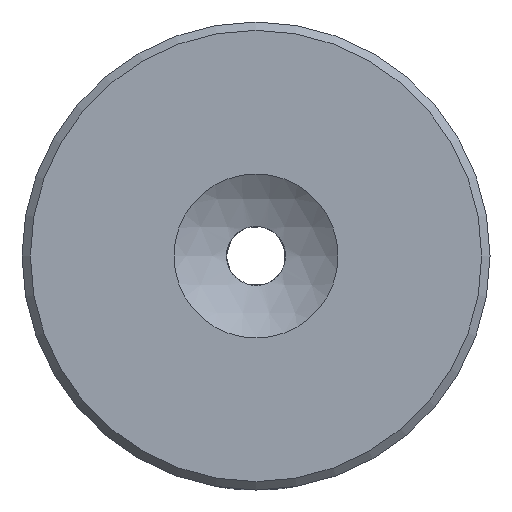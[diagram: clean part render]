
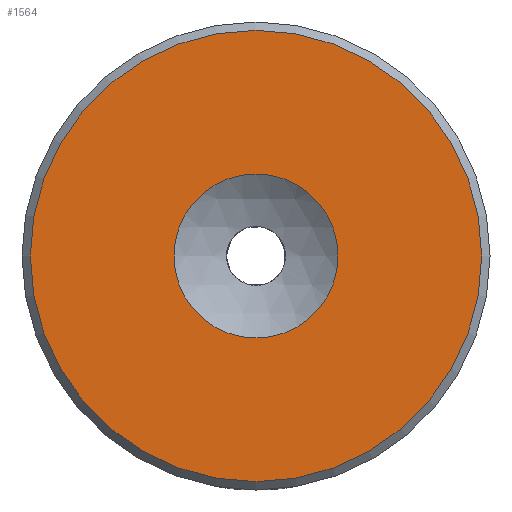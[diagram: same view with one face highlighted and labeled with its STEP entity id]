
A CAD part, front view. The second image highlights one B-rep face of the part: STEP entity #1564.
In plain terms, the highlighted planar face has unit normal (0, -1, 0).
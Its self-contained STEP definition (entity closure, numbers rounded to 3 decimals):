
#213 = FACE_OUTER_BOUND ( 'NONE', #871, .T. ) ;
#216 = DIRECTION ( 'NONE',  ( 0., -1., 0. ) ) ;
#452 = CARTESIAN_POINT ( 'NONE',  ( 0., 0., 13.5 ) ) ;
#663 = DIRECTION ( 'NONE',  ( 0., 1., 0. ) ) ;
#871 = EDGE_LOOP ( 'NONE', ( #2760 ) ) ;
#896 = VERTEX_POINT ( 'NONE', #452 ) ;
#914 = CARTESIAN_POINT ( 'NONE',  ( 0., 0., 4.905 ) ) ;
#951 = CARTESIAN_POINT ( 'NONE',  ( 0., 0., 0. ) ) ;
#1210 = FACE_BOUND ( 'NONE', #1981, .T. ) ;
#1350 = AXIS2_PLACEMENT_3D ( 'NONE', #951, #663, #2243 ) ;
#1496 = CARTESIAN_POINT ( 'NONE',  ( 0., 0., 0. ) ) ;
#1564 = ADVANCED_FACE ( 'NONE', ( #213, #1210 ), #2439, .F. ) ;
#1748 = EDGE_CURVE ( 'NONE', #1953, #1953, #2940, .T. ) ;
#1875 = AXIS2_PLACEMENT_3D ( 'NONE', #1496, #2507, #3014 ) ;
#1953 = VERTEX_POINT ( 'NONE', #914 ) ;
#1981 = EDGE_LOOP ( 'NONE', ( #3259 ) ) ;
#2047 = CIRCLE ( 'NONE', #2781, 13.5 ) ;
#2096 = EDGE_CURVE ( 'NONE', #896, #896, #2047, .T. ) ;
#2231 = DIRECTION ( 'NONE',  ( 0., 0., 1. ) ) ;
#2243 = DIRECTION ( 'NONE',  ( 0., 0., 1. ) ) ;
#2439 = PLANE ( 'NONE',  #1350 ) ;
#2481 = CARTESIAN_POINT ( 'NONE',  ( 0., 0., 0. ) ) ;
#2507 = DIRECTION ( 'NONE',  ( 0., -1., 0. ) ) ;
#2760 = ORIENTED_EDGE ( 'NONE', *, *, #2096, .T. ) ;
#2781 = AXIS2_PLACEMENT_3D ( 'NONE', #2481, #216, #2231 ) ;
#2940 = CIRCLE ( 'NONE', #1875, 4.905 ) ;
#3014 = DIRECTION ( 'NONE',  ( 0., 0., 1. ) ) ;
#3259 = ORIENTED_EDGE ( 'NONE', *, *, #1748, .F. ) ;
